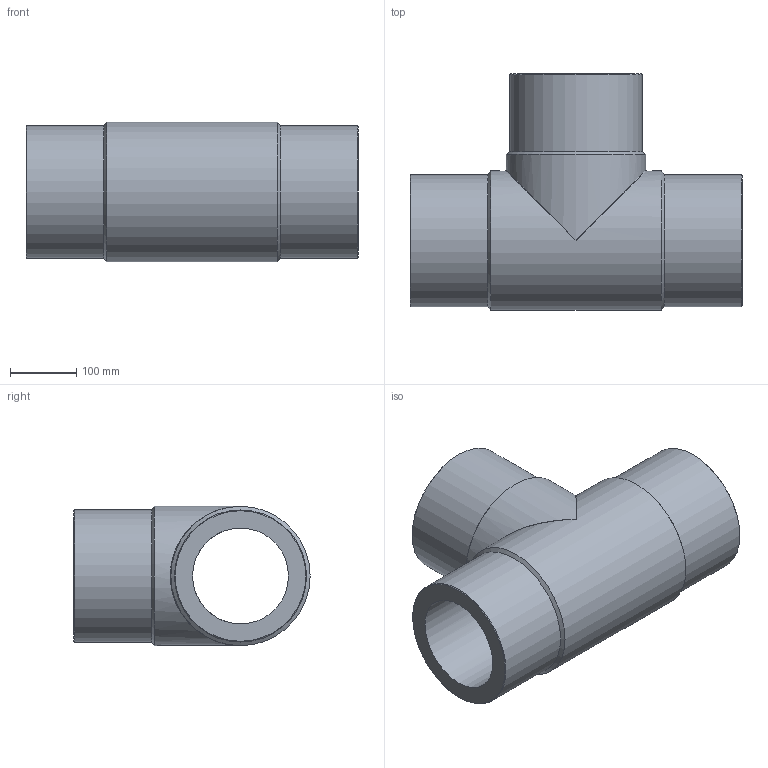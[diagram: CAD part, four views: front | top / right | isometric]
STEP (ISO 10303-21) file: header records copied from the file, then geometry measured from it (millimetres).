
FILE_DESCRIPTION(/* description */ ('Unknown'),/* implementation_level */ '2;1');
FILE_NAME(/* name */ 'TP200H',/* time_stamp */ '2021-08-05T09:28:13+02:00',/* author */ ('Unknown'),/* organization */ ('Unknown'),/* preprocessor_version */ 'ST-DEVELOPER v16.7',/* originating_system */ 'Solid Edge',/* authorisation */ 'Unknown');
FILE_SCHEMA (('AUTOMOTIVE_DESIGN {1 0 10303 214 3 1 1}'));
Length unit declared in the file: millimetre
Products named in the file (1): TP200H
Bounding box: 503 x 358 x 211 mm (x, y, z)
Volume: 10517116.8 mm3; surface area: 750558.3 mm2
Topology: 1 solids, 1 shells, 18 faces, 44 edges, 23 vertices
Faces by surface type: cylinder 7, cone 6, plane 3, bspline 2
Full cylindrical faces by diameter (mm): 145.2 x2, 200 x3, 211 x2
Entity records: 516 total; most frequent: CARTESIAN_POINT 159, DIRECTION 76, ORIENTED_EDGE 42, AXIS2_PLACEMENT_3D 38, EDGE_LOOP 36, FACE_BOUND 36, EDGE_CURVE 21, VERTEX_POINT 19
